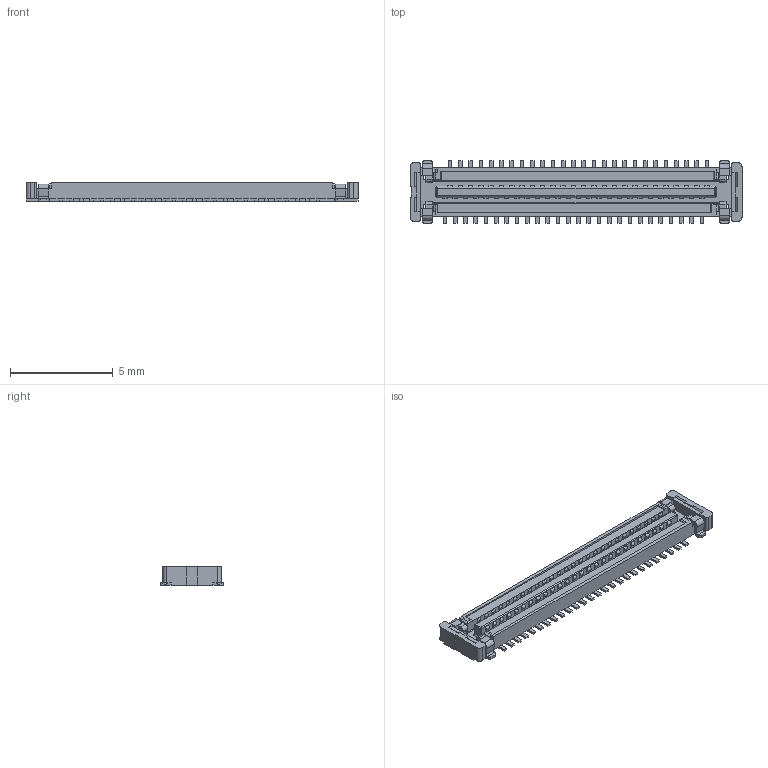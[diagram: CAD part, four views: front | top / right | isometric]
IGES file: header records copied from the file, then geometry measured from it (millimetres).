
Start section: Elysium IGES Interface
Global section: file name: 92HG:\濵岡\①終了\③3D依頼(客先提出用)\①提出可能一覧\IGES(igs)\XSLS□0-52\P3C164_XSLS00-52.igs; native system: Creo Elements/Direct Modeling 20.2  28-Feb-2019; preprocessor: Creo Element/Direct IGES_3D V2.2; author: Unknown; organization: Unknown; date: 20220204.155855; units: millimetre
Bounding box: 16.15 x 3.05 x 0.88 mm (x, y, z)
Volume: 25.5 mm3; surface area: 170.1 mm2
Topology: 1 solids, 1 shells, 1014 faces, 2634 edges, 1707 vertices
Faces by surface type: bspline 1014
